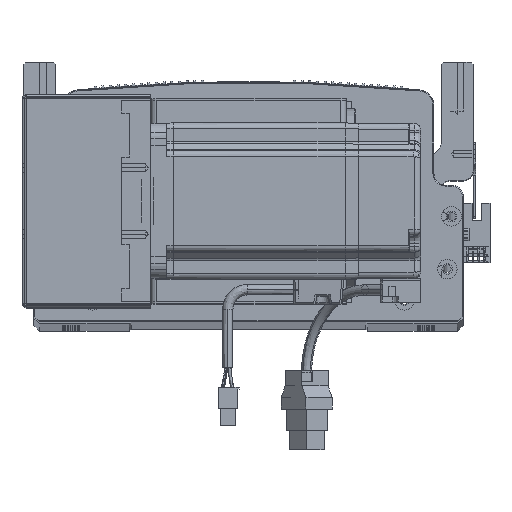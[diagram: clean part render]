
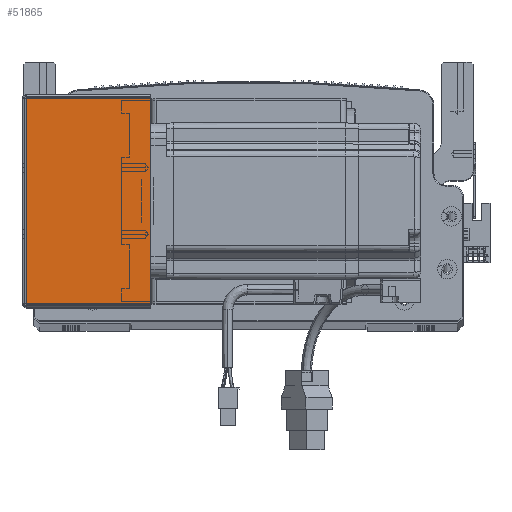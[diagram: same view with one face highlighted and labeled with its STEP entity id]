
A CAD part, top view. The second image highlights one B-rep face of the part: STEP entity #51865.
In plain terms, the highlighted planar face has unit normal (0, 0, 1) as drawn and (0, 0, -1) by its records, which use the part's own axes.
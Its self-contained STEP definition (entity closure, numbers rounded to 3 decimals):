
#3536 = CARTESIAN_POINT ( 'NONE',  ( 0., 105.293, -205.5 ) ) ;
#4031 = CARTESIAN_POINT ( 'NONE',  ( 0., 0., -205.5 ) ) ;
#4399 = LINE ( 'NONE', #35339, #74587 ) ;
#7675 = DIRECTION ( 'NONE',  ( 0., -1., 0. ) ) ;
#11313 = DIRECTION ( 'NONE',  ( 0., 0., 1. ) ) ;
#11720 = DIRECTION ( 'NONE',  ( 1., 0., 0. ) ) ;
#12749 = LINE ( 'NONE', #93881, #45584 ) ;
#13226 = DIRECTION ( 'NONE',  ( 0., -1., 0. ) ) ;
#17147 = EDGE_CURVE ( 'NONE', #76222, #25270, #4399, .T. ) ;
#19303 = LINE ( 'NONE', #80729, #81624 ) ;
#24702 = ORIENTED_EDGE ( 'NONE', *, *, #62491, .F. ) ;
#25168 = DIRECTION ( 'NONE',  ( 1., 0., 0. ) ) ;
#25270 = VERTEX_POINT ( 'NONE', #71223 ) ;
#35339 = CARTESIAN_POINT ( 'NONE',  ( 64.5, 0., -205.5 ) ) ;
#37471 = ORIENTED_EDGE ( 'NONE', *, *, #17147, .T. ) ;
#38633 = CARTESIAN_POINT ( 'NONE',  ( 0.737, 0.707, -205.5 ) ) ;
#38947 = VECTOR ( 'NONE', #11720, 1000. ) ;
#42337 = ORIENTED_EDGE ( 'NONE', *, *, #68600, .F. ) ;
#45584 = VECTOR ( 'NONE', #93563, 1000. ) ;
#48434 = EDGE_CURVE ( 'NONE', #73821, #76222, #68387, .T. ) ;
#51865 = ADVANCED_FACE ( 'NONE', ( #71215 ), #68563, .F. ) ;
#62491 = EDGE_CURVE ( 'NONE', #73821, #79345, #19303, .T. ) ;
#64449 = CARTESIAN_POINT ( 'NONE',  ( 0.737, 105.293, -205.5 ) ) ;
#68387 = LINE ( 'NONE', #3536, #38947 ) ;
#68563 = PLANE ( 'NONE',  #90133 ) ;
#68600 = EDGE_CURVE ( 'NONE', #79345, #25270, #12749, .T. ) ;
#71215 = FACE_OUTER_BOUND ( 'NONE', #77028, .T. ) ;
#71223 = CARTESIAN_POINT ( 'NONE',  ( 64.5, 0.707, -205.5 ) ) ;
#73821 = VERTEX_POINT ( 'NONE', #64449 ) ;
#74587 = VECTOR ( 'NONE', #13226, 1000. ) ;
#76222 = VERTEX_POINT ( 'NONE', #89137 ) ;
#77028 = EDGE_LOOP ( 'NONE', ( #24702, #79867, #37471, #42337 ) ) ;
#79345 = VERTEX_POINT ( 'NONE', #38633 ) ;
#79867 = ORIENTED_EDGE ( 'NONE', *, *, #48434, .T. ) ;
#80729 = CARTESIAN_POINT ( 'NONE',  ( 0.737, 0., -205.5 ) ) ;
#81624 = VECTOR ( 'NONE', #7675, 1000. ) ;
#89137 = CARTESIAN_POINT ( 'NONE',  ( 64.5, 105.293, -205.5 ) ) ;
#90133 = AXIS2_PLACEMENT_3D ( 'NONE', #4031, #11313, #25168 ) ;
#93563 = DIRECTION ( 'NONE',  ( 1., 0., 0. ) ) ;
#93881 = CARTESIAN_POINT ( 'NONE',  ( 0., 0.707, -205.5 ) ) ;
